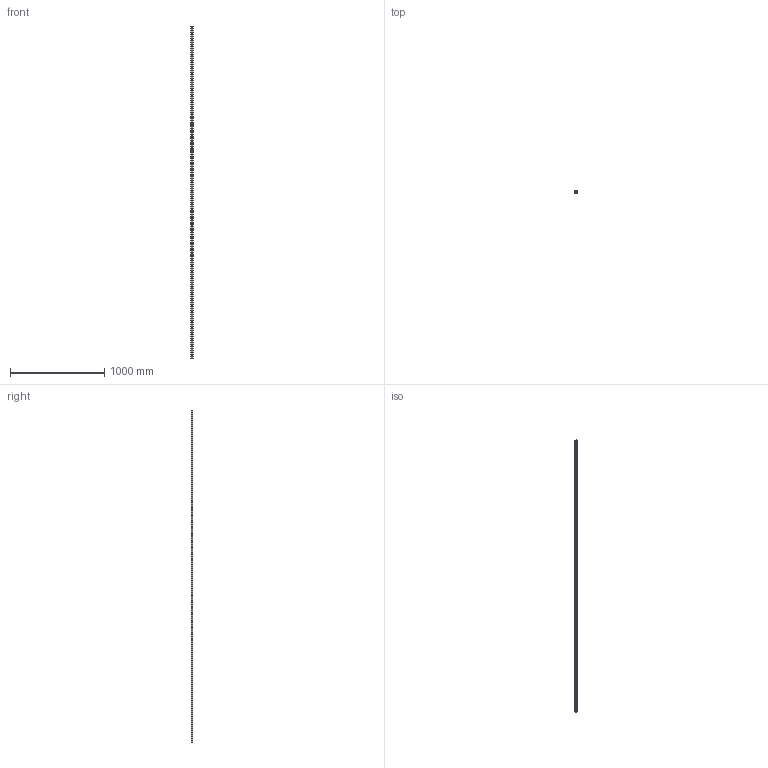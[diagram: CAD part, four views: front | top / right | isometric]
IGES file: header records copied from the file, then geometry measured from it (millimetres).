
Start section: SolidWorks IGES file using analytic representation for surfaces
Global section: file name: C:\Users\IanO\Desktop\L1016_v2\L1016.BL25_v2\L1016.BL25_v2_20160611_IGES\L1016.BL25-3520.igs; native system: SolidWorks 2017; preprocessor: SolidWorks 2017; author: IanO; date: 190612.131546; units: millimetre
Bounding box: 23 x 19.2 x 3520 mm (x, y, z)
Surface area: 332874.8 mm2 (no closed solid volume)
Topology: 0 solids, 0 shells, 321 faces, 8664 edges, 8664 vertices
Faces by surface type: revolution 240, bspline 81
